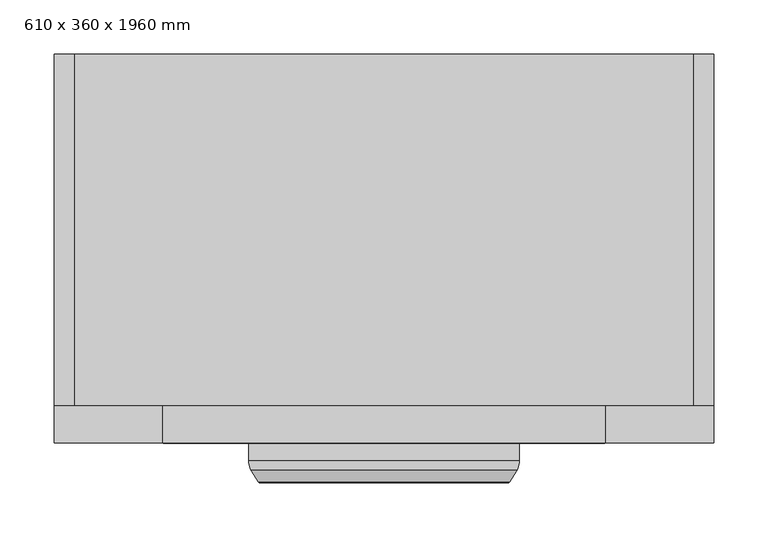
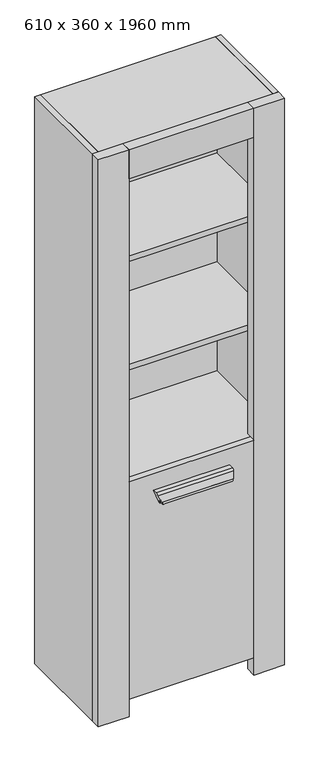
"""IFC4 building model written with IfcOpenShell, lengths in millimetres: furniture geometry, Bibliothèque - Type adolescent : 610 x 360 x 1960 mm."""

import ifcopenshell
import ifcopenshell.guid

model = None  # the IFC model being written
_history = None  # IfcOwnerHistory: only IFC2X3 demands one
_inside = {}  # id of a spatial element -> (the spatial element, [elements in it])
_under = {}  # id of a project, library or spatial element -> (it, [spatial elements below it])
_declared = {}  # id of a project -> (the project, [libraries it declares])
_typed = {}  # id of a type object -> (the type object, [elements of that type])
_made_of = {}  # id of a material, layer set ... -> (it, [elements and type objects made of it])


def new_model(schema):
    """Start an empty IFC model of exactly this schema.

    Asked for "IFC4X3", IfcOpenShell would pick the latest addendum, in which some entities
    have other attributes; the version numbers below select the first issue.
    IFC2X3 requires an IfcOwnerHistory on every rooted entity: one is made here for all.
    """
    global model, _history
    if schema == "IFC4X3":
        model = ifcopenshell.file(schema_version=(4, 3, 0, 0))
    else:
        model = ifcopenshell.file(schema=schema)
    _inside.clear()
    _under.clear()
    _declared.clear()
    _typed.clear()
    _made_of.clear()
    _history = None
    if model.schema == "IFC2X3":
        org = make("IfcOrganization", Name="unknown")
        user = make(
            "IfcPersonAndOrganization",
            ThePerson=make("IfcPerson", FamilyName="unknown"),
            TheOrganization=org,
        )
        app = make(
            "IfcApplication",
            ApplicationDeveloper=org,
            Version="unknown",
            ApplicationFullName="unknown",
            ApplicationIdentifier="unknown",
        )
        _history = make(
            "IfcOwnerHistory",
            OwningUser=user,
            OwningApplication=app,
            ChangeAction="ADDED",
            CreationDate=0,
        )
    return model


def make(cls, **values):
    """One entity of the class cls with the attributes given. An attribute that is None is left unset."""
    return model.create_entity(
        cls, **{name: value for name, value in values.items() if value is not None}
    )


def rooted(cls, **values):
    """An entity with a GlobalId (a new one), such as an element, a storey or a relation."""
    return make(cls, GlobalId=ifcopenshell.guid.new(), OwnerHistory=_history, **values)


def si_unit(unit_type, name, prefix=None):
    """IfcSIUnit, for example si_unit("LENGTHUNIT", "METRE", prefix="MILLI")."""
    return make("IfcSIUnit", UnitType=unit_type, Prefix=prefix, Name=name)


def assignment(units):
    """IfcUnitAssignment: the units of a project."""
    return None if units is None else make("IfcUnitAssignment", Units=units)


def point(xyz):
    """IfcCartesianPoint."""
    return None if xyz is None else make("IfcCartesianPoint", Coordinates=xyz)


def direction(xyz):
    """IfcDirection."""
    return None if xyz is None else make("IfcDirection", DirectionRatios=xyz)


def frame(location, z_axis=None, x_axis=None):
    """IfcAxis2Placement3D, a coordinate frame: its origin and axes. An axis left out is left unset."""
    return make(
        "IfcAxis2Placement3D",
        Location=point(location),
        Axis=direction(z_axis),
        RefDirection=direction(x_axis),
    )


def origin():
    """The frame at (0, 0, 0) with its axes left unset."""
    return frame((0.0, 0.0, 0.0))


def origin_with_axes():
    """The frame at (0, 0, 0) with the z axis (0, 0, 1) and the x axis (1, 0, 0) written out."""
    return frame((0.0, 0.0, 0.0), z_axis=(0.0, 0.0, 1.0), x_axis=(1.0, 0.0, 0.0))


def place(relative_to, where):
    """IfcLocalPlacement: puts the frame where relative to a parent placement (None: the world)."""
    return make(
        "IfcLocalPlacement", PlacementRelTo=relative_to, RelativePlacement=where
    )


def context(
    kind, dimensions, precision=None, world=None, true_north=None, identifier=None
):
    """IfcGeometricRepresentationContext, for example the 3D "Model" context."""
    return make(
        "IfcGeometricRepresentationContext",
        ContextIdentifier=identifier,
        ContextType=kind,
        CoordinateSpaceDimension=dimensions,
        Precision=precision,
        WorldCoordinateSystem=world,
        TrueNorth=true_north,
    )


def project(units=None, contexts=None):
    """IfcProject with its units and contexts."""
    return rooted(
        "IfcProject",
        Name="project",
        RepresentationContexts=contexts,
        UnitsInContext=assignment(units),
    )


def spatial(cls, under=None, at=None, **own):
    """A site, building, storey or space (cls), placed at a placement, below another one or the project."""
    s = rooted(cls, ObjectPlacement=at, **own)
    if under is not None:
        _under.setdefault(under.id(), (under, []))[1].append(s)
    return s


def polyline(points):
    """IfcPolyline through the points."""
    return make("IfcPolyline", Points=[point(p) for p in points])


def ellipse_curve(where, semi_axis1, semi_axis2):
    """IfcEllipse in the frame where."""
    return make(
        "IfcEllipse", Position=where, SemiAxis1=semi_axis1, SemiAxis2=semi_axis2
    )


def outline(outer, holes=None, kind="AREA"):
    """IfcArbitraryClosedProfileDef: a profile drawn as a closed curve; with holes, ...WithVoids."""
    if holes is None:
        return make("IfcArbitraryClosedProfileDef", ProfileType=kind, OuterCurve=outer)
    return make(
        "IfcArbitraryProfileDefWithVoids",
        ProfileType=kind,
        OuterCurve=outer,
        InnerCurves=holes,
    )


def extrude(swept, where, along, depth):
    """IfcExtrudedAreaSolid: the profile swept, set in the frame where, extruded along a direction by depth."""
    return make(
        "IfcExtrudedAreaSolid",
        SweptArea=swept,
        Position=where,
        ExtrudedDirection=direction(along),
        Depth=depth,
    )


def faces_of(points, faces, orient=None, outer=None):
    """IfcFace entities. A face is a list of loops; a loop is a list of indices into points, from 0.

    orient and outer hold one flag for each loop. By default every Orientation is true, the
    first loop of a face is its IfcFaceOuterBound and the others are IfcFaceBound.
    """
    made = []
    for i, loops in enumerate(faces):
        bounds = []
        for j, loop in enumerate(loops):
            is_outer = j == 0 if outer is None else outer[i][j]
            bounds.append(
                make(
                    "IfcFaceOuterBound" if is_outer else "IfcFaceBound",
                    Bound=make("IfcPolyLoop", Polygon=[points[k] for k in loop]),
                    Orientation=True if orient is None else orient[i][j],
                )
            )
        made.append(make("IfcFace", Bounds=bounds))
    return made


def faceted_brep(points, faces, orient=None, outer=None, voids=None):
    """IfcFacetedBrep: a solid bounded by flat faces; with voids (closed shells), ...WithVoids."""
    shared = [point(p) for p in points]
    hull = make("IfcClosedShell", CfsFaces=faces_of(shared, faces, orient, outer))
    if voids is None:
        return make("IfcFacetedBrep", Outer=hull)
    return make(
        "IfcFacetedBrepWithVoids",
        Outer=hull,
        Voids=[
            make(cls, CfsFaces=faces_of(shared, fs, o, b)) for cls, fs, o, b in voids
        ],
    )


def shape(context_of_items, identifier, shape_type, items):
    """IfcShapeRepresentation: the items that make up one representation, for example the "Body"."""
    return make(
        "IfcShapeRepresentation",
        ContextOfItems=context_of_items,
        RepresentationIdentifier=identifier,
        RepresentationType=shape_type,
        Items=items,
    )


def source(mapping_origin, context_of_items, identifier, shape_type, items):
    """IfcRepresentationMap: a shape defined once, which mapped items show again and again."""
    return make(
        "IfcRepresentationMap",
        MappingOrigin=mapping_origin,
        MappedRepresentation=shape(context_of_items, identifier, shape_type, items),
    )


def transform(
    local_origin,
    x_axis=None,
    y_axis=None,
    z_axis=None,
    scale=None,
    scale2=None,
    scale3=None,
    uniform=True,
):
    """IfcCartesianTransformationOperator3D, or its non-uniform kind. x_axis, y_axis, z_axis: its Axis1, 2, 3."""
    if uniform:
        return make(
            "IfcCartesianTransformationOperator3D",
            Axis1=direction(x_axis),
            Axis2=direction(y_axis),
            LocalOrigin=point(local_origin),
            Scale=scale,
            Axis3=direction(z_axis),
        )
    return make(
        "IfcCartesianTransformationOperator3DnonUniform",
        Axis1=direction(x_axis),
        Axis2=direction(y_axis),
        LocalOrigin=point(local_origin),
        Scale=scale,
        Axis3=direction(z_axis),
        Scale2=scale2,
        Scale3=scale3,
    )


def mapped(mapping_source, mapping_target):
    """IfcMappedItem: shows the shape of a source again, moved by a transform."""
    return make(
        "IfcMappedItem", MappingSource=mapping_source, MappingTarget=mapping_target
    )


def made_of(thing, what):
    """Note that an element or type object is made of a material, layer set ...; save() writes the relation."""
    if what is not None:
        _made_of.setdefault(what.id(), (what, []))[1].append(thing)
    return thing


def element(
    cls,
    number,
    at=None,
    inside=None,
    cuts=None,
    type_object=None,
    material=None,
    context=None,
    identifier="Body",
    shape_type=None,
    held_by="IfcProductDefinitionShape",
    body=None,
    shapes=None,
    **own,
):
    """One element of the class cls, such as IfcWall. Its Tag is "e" and its number.

    at: its placement. inside: the storey or other place that contains it. cuts: it is an
    opening in that element (IfcRelVoidsElement). A single representation is given by context,
    identifier, shape_type and body (its items); several are given by shapes. held_by: the class
    of the entity that holds the representations. save() writes the other relations.
    """
    e = rooted(cls, Tag="e%d" % number, ObjectPlacement=at, **own)
    if body is not None:
        shapes = [shape(context, identifier, shape_type, body)]
    if shapes is not None:
        e.Representation = make(held_by, Representations=shapes)
    if inside is not None:
        _inside.setdefault(inside.id(), (inside, []))[1].append(e)
    if cuts is not None:
        rooted(
            "IfcRelVoidsElement", RelatingBuildingElement=cuts, RelatedOpeningElement=e
        )
    if type_object is not None:
        _typed.setdefault(type_object.id(), (type_object, []))[1].append(e)
    return made_of(e, material)


def aggregate(whole, parts):
    """IfcRelAggregates: a whole, such as a stair, and the parts it consists of."""
    return rooted("IfcRelAggregates", RelatingObject=whole, RelatedObjects=parts)


def save(model, path):
    """Write the relations noted so far, then the file.

    IfcRelAggregates (storeys below a building ...), IfcRelContainedInSpatialStructure (elements
    in a storey), IfcRelDefinesByType, IfcRelAssociatesMaterial and IfcRelDeclares: one each for
    every whole, place, type object, material and project.
    """
    for whole, parts in _under.values():
        aggregate(whole, parts)
    for where, things in _inside.values():
        rooted(
            "IfcRelContainedInSpatialStructure",
            RelatedElements=things,
            RelatingStructure=where,
        )
    for kind, things in _typed.values():
        rooted("IfcRelDefinesByType", RelatedObjects=things, RelatingType=kind)
    for what, things in _made_of.values():
        rooted("IfcRelAssociatesMaterial", RelatedObjects=things, RelatingMaterial=what)
    for by, libraries in _declared.values():
        rooted("IfcRelDeclares", RelatingContext=by, RelatedDefinitions=libraries)
    model.write(path)


def plane_surface(at):
    """IfcPlane: the flat surface through the origin of the frame at, square to its z axis."""
    return make("IfcPlane", Position=at)


def cylinder_surface(at, radius):
    """IfcCylindricalSurface: all points at the distance radius from the z axis of the frame at."""
    return make("IfcCylindricalSurface", Position=at, Radius=radius)


def revolved_surface(curve, axis_point, axis_direction):
    """IfcSurfaceOfRevolution: the curve turned about the line through axis_point along axis_direction."""
    return make(
        "IfcSurfaceOfRevolution",
        SweptCurve=make("IfcArbitraryOpenProfileDef", ProfileType="CURVE", Curve=curve),
        AxisPosition=make("IfcAxis1Placement", Location=point(axis_point), Axis=direction(axis_direction)),
    )


def advanced_brep(points, edges, surfaces, faces):
    """IfcAdvancedBrep: a solid bounded by faces that lie on surfaces and meet in shared edges.

    An edge is (start, end): straight between two places in points (the first is 0);
    or (start, end, curve); or (start, end, curve, False) where it runs against its curve.
    A face is (place in surfaces, loops), or (place, loops, False) where it looks against
    its surface's normal. A loop lists edges by number (the first is 1), with a minus sign
    where the edge is run from its end to its start. The first loop is the outer one.
    """
    corners = [point(p) for p in points]
    vertices = [make("IfcVertexPoint", VertexGeometry=c) for c in corners]
    made = []
    for start, end, *more in edges:
        made.append(
            make(
                "IfcEdgeCurve",
                EdgeStart=vertices[start],
                EdgeEnd=vertices[end],
                EdgeGeometry=more[0] if more else make("IfcPolyline", Points=[corners[start], corners[end]]),
                SameSense=more[1] if len(more) > 1 else True,
            )
        )
    hull = []
    for where, loops, *sense in faces:
        bounds = []
        for j, loop in enumerate(loops):
            ring = [make("IfcOrientedEdge", EdgeElement=made[abs(k) - 1], Orientation=k > 0) for k in loop]
            bounds.append(
                make(
                    "IfcFaceOuterBound" if j == 0 else "IfcFaceBound",
                    Bound=make("IfcEdgeLoop", EdgeList=ring),
                    Orientation=True,
                )
            )
        hull.append(make("IfcAdvancedFace", Bounds=bounds, FaceSurface=surfaces[where], SameSense=sense[0] if sense else True))
    return make("IfcAdvancedBrep", Outer=make("IfcClosedShell", CfsFaces=hull))


def furniture_610_x_360_x_1960_mm_024869ef(model_context):
    return source(origin(), model_context, "Body", "SolidModel", [
        advanced_brep(
        [(125.0, -360.0, 754.9), (-125.0, -360.0, 754.9), (-125.0, -375.5749309, 754.9), (125.0, -375.5749309, 754.9), (-123.1101546, -384.5682716, 749.7076923), (123.1101546, -384.5682716, 749.7076923), (-116.2259495, -395.4883888, 730.7934944), (116.2259495, -395.4883888, 730.7934944), (-113.7061556, -383.4972679, 723.8704175), (113.7061556, -383.4972679, 723.8704175), (-114.1843327, -382.7387561, 725.1841984), (114.1843327, -382.7387561, 725.1841984), (-113.1764152, -372.4038462, 722.4149677), (113.1764152, -372.4038462, 722.4149677), (-110.4411906, -372.4038462, 714.9), (110.4411906, -372.4038462, 714.9), (108.6213395, -367.4038462, 709.9), (-108.6213395, -367.4038462, 709.9), (-108.6213395, -360.0, 709.9), (108.6213395, -360.0, 709.9)],
        [
            (0, 1),
            (1, 2),
            (2, 3),
            (3, 0),
            (2, 4, ellipse_curve(frame((-121.2203091, -375.5749309, 744.5153846), z_axis=(0.9396926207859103, 0.0, 0.3420201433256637), x_axis=(0.34202014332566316, 0.0, -0.9396926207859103)), 11.0510769, 10.3846154)),
            (4, 5),
            (5, 3, ellipse_curve(frame((121.2203091, -375.5749309, 744.5153846), z_axis=(-0.9396926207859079, 0.0, 0.3420201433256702), x_axis=(0.34202014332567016, 0.0, 0.9396926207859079)), 11.0510769, 10.3846154)),
            (4, 6),
            (6, 7),
            (7, 5),
            (6, 8, ellipse_curve(frame((-114.9660525, -389.4928283, 727.3319559), z_axis=(0.9396926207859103, 0.0, 0.3420201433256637), x_axis=(0.34202014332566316, 0.0, -0.9396926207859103)), 7.3673846, 6.9230769)),
            (8, 9),
            (9, 7, ellipse_curve(frame((114.9660525, -389.4928283, 727.3319559), z_axis=(-0.9396926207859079, 0.0, 0.3420201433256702), x_axis=(0.34202014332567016, 0.0, 0.9396926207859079)), 7.3673846, 6.9230769)),
            (8, 10),
            (10, 11),
            (11, 9),
            (10, 12, ellipse_curve(frame((-113.1764152, -377.9423077, 722.4149677), z_axis=(-0.9396926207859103, 0.0, -0.3420201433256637), x_axis=(-0.34202014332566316, 0.0, 0.9396926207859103)), 5.8939077, 5.5384615)),
            (12, 13),
            (13, 11, ellipse_curve(frame((113.1764152, -377.9423077, 722.4149677), z_axis=(0.9396926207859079, 0.0, -0.3420201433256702), x_axis=(-0.34202014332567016, 0.0, -0.9396926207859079)), 5.8939077, 5.5384615)),
            (12, 14),
            (14, 15),
            (15, 13),
            (16, 17),
            (17, 18),
            (18, 19),
            (19, 16),
            (0, 19),
            (18, 1),
            (16, 15, ellipse_curve(frame((110.4411906, -367.4038462, 714.9), z_axis=(-0.9396926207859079, 0.0, 0.3420201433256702), x_axis=(0.34202014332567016, 0.0, 0.9396926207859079)), 5.3208889, 5.0)),
            (14, 17, ellipse_curve(frame((-110.4411906, -367.4038462, 714.9), z_axis=(0.9396926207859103, 0.0, 0.3420201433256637), x_axis=(0.34202014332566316, 0.0, -0.9396926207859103)), 5.3208889, 5.0)),
        ],
        [
            plane_surface(frame((125.0, -360.0, 754.9), z_axis=(0.0, 0.0, 1.0), x_axis=(-1.0, 0.0, 0.0))),
            cylinder_surface(frame((-125.0, -375.5749309, 744.5153846), z_axis=(1.0, 0.0, 0.0), x_axis=(0.0, 1.0, 0.0)), 10.3846154),
            plane_surface(frame((125.0, -384.5682716, 749.7076923), z_axis=(0.0, -0.8660254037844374, 0.5000000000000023), x_axis=(-1.0, 0.0, 0.0))),
            cylinder_surface(frame((-125.0, -389.4928283, 727.3319559), z_axis=(1.0, 0.0, 0.0), x_axis=(0.0, 1.0, 0.0)), 6.9230769),
            plane_surface(frame((125.0, -383.4972679, 723.8704175), z_axis=(0.0, 0.8660254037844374, -0.5000000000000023), x_axis=(-1.0, 0.0, 0.0))),
            revolved_surface(polyline([(-115.19225035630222, -372.40384620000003, 722.4149677), (115.19225035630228, -372.40384620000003, 722.4149677)]), (-125.0, -377.9423077, 722.4149677), (-1.0, 0.0, 0.0)),
            plane_surface(frame((125.0, -372.4038462, 722.4149677), z_axis=(0.0, -1.0, 0.0), x_axis=(-1.0, 0.0, 0.0))),
            plane_surface(frame((125.0, -367.4038462, 709.9), z_axis=(0.0, 0.0, -1.0), x_axis=(-1.0, 0.0, 0.0))),
            plane_surface(frame((125.0, -360.0, 709.9), z_axis=(0.0, 1.0, 0.0), x_axis=(-1.0, 0.0, 0.0))),
            cylinder_surface(frame((-125.0, -367.4038462, 714.9), z_axis=(1.0, 0.0, 0.0), x_axis=(0.0, 0.0, 1.0)), 5.0),
            plane_surface(frame((-105.0, -610.0, 699.9504516), z_axis=(-0.9396926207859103, 0.0, -0.3420201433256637), x_axis=(0.0, 1.0, 0.0))),
            plane_surface(frame((125.0, -610.0, 754.9), z_axis=(0.9396926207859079, 0.0, -0.3420201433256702), x_axis=(0.0, 1.0, 0.0))),
        ],
        [
            (0, [[1, 2, 3, 4]]),
            (1, [[-3, 5, 6, 7]]),
            (2, [[-6, 8, 9, 10]]),
            (3, [[-9, 11, 12, 13]]),
            (4, [[-12, 14, 15, 16]]),
            (5, [[-15, 17, 18, 19]]),
            (6, [[-18, 20, 21, 22]]),
            (7, [[23, 24, 25, 26]]),
            (8, [[-1, 27, -25, 28]]),
            (9, [[-23, 29, -21, 30]]),
            (10, [[-2, -28, -24, -30, -20, -17, -14, -11, -8, -5]]),
            (11, [[-4, -7, -10, -13, -16, -19, -22, -29, -26, -27]]),
        ],
    ),
        extrude(outline(polyline([(286.0, 0.0), (286.0, -325.0), (-286.0, -325.0), (-286.0, 0.0), (286.0, 0.0)])), frame((0.0, 0.0, 1941.0), z_axis=(0.0, 0.0, 1.0), x_axis=(1.0, 0.0, 0.0)), (0.0, 0.0, 1.0), 19.0),
        extrude(outline(polyline([(-286.0, 0.0), (-286.0, -325.0), (-305.0, -325.0), (-305.0, 0.0), (-286.0, 0.0)])), origin_with_axes(), (0.0, 0.0, 1.0), 1960.0),
        extrude(outline(polyline([(305.0, 0.0), (305.0, -325.0), (286.0, -325.0), (286.0, 0.0), (305.0, 0.0)])), origin_with_axes(), (0.0, 0.0, 1.0), 1960.0),
        extrude(outline(polyline([(-205.0, -360.0), (-305.0, -360.0), (-305.0, -325.0), (-205.0, -325.0), (-205.0, -360.0)])), origin_with_axes(), (0.0, 0.0, 1.0), 1960.0),
        extrude(outline(polyline([(305.0, -325.0), (305.0, -360.0), (205.0, -360.0), (205.0, -325.0), (305.0, -325.0)])), origin_with_axes(), (0.0, 0.0, 1.0), 1960.0),
        extrude(outline(polyline([(-204.0, -341.0), (204.0, -341.0), (204.0, -360.0), (-204.0, -360.0), (-204.0, -341.0)])), frame((0.0, 0.0, 60.0), z_axis=(0.0, 0.0, 1.0), x_axis=(1.0, 0.0, 0.0)), (0.0, 0.0, 1.0), 752.4),
        faceted_brep([(286.0, -325.0, 1545.8), (286.0, -325.0, 1564.8), (-286.0, -325.0, 1564.8), (-286.0, -325.0, 1545.8), (286.0, -10.0, 1545.8), (-286.0, -10.0, 1545.8), (-286.0, -10.0, 1564.8), (286.0, -10.0, 1564.8)], [[[0, 1, 2, 3]], [[4, 5, 6, 7]], [[1, 0, 4, 7]], [[2, 1, 7, 6]], [[3, 2, 6, 5]], [[0, 3, 5, 4]]]),
        faceted_brep([(286.0, -325.0, 1169.6), (286.0, -325.0, 1188.6), (-286.0, -325.0, 1188.6), (-286.0, -325.0, 1169.6), (286.0, -10.0, 1169.6), (-286.0, -10.0, 1169.6), (-286.0, -10.0, 1188.6), (286.0, -10.0, 1188.6)], [[[0, 1, 2, 3]], [[4, 5, 6, 7]], [[1, 0, 4, 7]], [[2, 1, 7, 6]], [[3, 2, 6, 5]], [[0, 3, 5, 4]]]),
        faceted_brep([(286.0, -325.0, 793.4), (286.0, -325.0, 812.4), (205.0, -325.0, 812.4), (205.0, -325.0, 793.4), (-286.0, -325.0, 812.4), (-286.0, -325.0, 793.4), (-205.0, -325.0, 793.4), (-205.0, -325.0, 812.4), (286.0, -10.0, 793.4), (-286.0, -10.0, 793.4), (-286.0, -10.0, 812.4), (286.0, -10.0, 812.4), (-205.0, -340.0, 812.4), (205.0, -340.0, 812.4), (205.0, -340.0, 792.4), (-205.0, -340.0, 792.4), (205.0, -325.0, 792.4), (-205.0, -325.0, 792.4)], [[[0, 1, 2, 3]], [[4, 5, 6, 7]], [[8, 9, 10, 11]], [[1, 0, 8, 11]], [[11, 10, 4, 7, 12, 13, 2, 1]], [[5, 4, 10, 9]], [[9, 8, 0, 3, 6, 5]], [[14, 13, 12, 15]], [[16, 17, 6, 3]], [[13, 14, 16, 3, 2]], [[15, 12, 7, 6, 17]], [[14, 15, 17, 16]]]),
        extrude(outline(polyline([(-205.0, -325.0), (205.0, -325.0), (205.0, -360.0), (-205.0, -360.0), (-205.0, -325.0)])), frame((0.0, 0.0, 1860.0), z_axis=(0.0, 0.0, 1.0), x_axis=(1.0, 0.0, 0.0)), (0.0, 0.0, 1.0), 100.0),
        extrude(outline(polyline([(286.0, 0.0), (286.0, -10.0), (-286.0, -10.0), (-286.0, 0.0), (286.0, 0.0)])), origin_with_axes(), (0.0, 0.0, 1.0), 1941.0),
    ])


if __name__ == "__main__":
    model = new_model("IFC4")
    model_context = context("Model", 3, world=origin())
    ifc_project = project(units=[si_unit("LENGTHUNIT", "METRE", prefix="MILLI")], contexts=[model_context])
    site = spatial("IfcSite", under=ifc_project)
    building = spatial("IfcBuilding", under=site)
    placement = place(None, origin())
    furniture_610_x_360_x_1960_mm_shape = furniture_610_x_360_x_1960_mm_024869ef(model_context)
    element("IfcFurniture", 1, ObjectType="Bibliothèque - Type adolescent : 610 x 360 x 1960 mm", at=placement, inside=building, context=model_context, shape_type="MappedRepresentation", body=[
        mapped(furniture_610_x_360_x_1960_mm_shape, transform((0.0, 0.0, 0.0), x_axis=(1.0, 0.0, 0.0), y_axis=(0.0, 1.0, 0.0), z_axis=(0.0, 0.0, 1.0))),
    ])
    save(model, "model.ifc")
